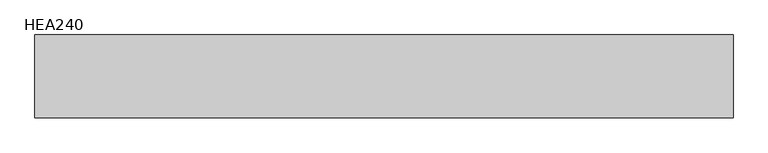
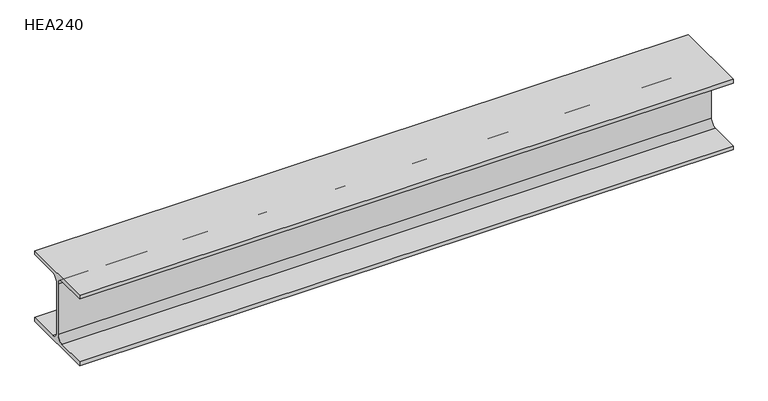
"""IFC4 building model written with IfcOpenShell, lengths in millimetres: beam geometry, HE-A : HEA240."""

from ifc_helpers import new_model, si_unit, point, frame, frame_2d, origin, place, context, project, spatial, polyline, circle_curve, trimmed, segment, composite_curve, outline, extrude, source, transform, mapped, element, save


def hea240_35d9e401(model_context):
    return source(origin(), model_context, "Body", "SweptSolid", [
        extrude(outline(composite_curve([segment(polyline([(120.0, -103.0), (120.0, -115.0), (-120.0, -115.0), (-120.0, -103.0), (-24.75, -103.0)]), True, "CONTINUOUS"), segment(trimmed(circle_curve(frame_2d((-24.75, -82.0)), 21.0), [point((-24.75, -103.0))], [point((-3.75, -82.0))], True, "CARTESIAN"), True, "CONTINUOUS"), segment(polyline([(-3.75, -82.0), (-3.75, 82.0)]), True, "CONTINUOUS"), segment(trimmed(circle_curve(frame_2d((-24.75, 82.0)), 21.0), [point((-3.75, 82.0))], [point((-24.75, 103.0))], True, "CARTESIAN"), True, "CONTINUOUS"), segment(polyline([(-24.75, 103.0), (-120.0, 103.0), (-120.0, 115.0), (120.0, 115.0), (120.0, 103.0), (24.75, 103.0)]), True, "CONTINUOUS"), segment(trimmed(circle_curve(frame_2d((24.75, 82.0)), 21.0), [point((24.75, 103.0))], [point((3.75, 82.0))], True, "CARTESIAN"), True, "CONTINUOUS"), segment(polyline([(3.75, 82.0), (3.75, -82.0)]), True, "CONTINUOUS"), segment(trimmed(circle_curve(frame_2d((24.75, -82.0)), 21.0), [point((3.75, -82.0))], [point((24.75, -103.0))], True, "CARTESIAN"), True, "CONTINUOUS"), segment(polyline([(24.75, -103.0), (120.0, -103.0)]), True, "CONTINUOUS")], self_intersect=False)), frame((-1012.3, 0.0, 0.0), z_axis=(1.0, 0.0, 0.0), x_axis=(0.0, 1.0, 0.0)), (0.0, 0.0, 1.0), 2019.9),
    ])


if __name__ == "__main__":
    model = new_model("IFC4")
    model_context = context("Model", 3, world=origin())
    ifc_project = project(units=[si_unit("LENGTHUNIT", "METRE", prefix="MILLI")], contexts=[model_context])
    site = spatial("IfcSite", under=ifc_project)
    building = spatial("IfcBuilding", under=site)
    placement = place(None, origin())
    hea240_shape = hea240_35d9e401(model_context)
    element("IfcBeam", 1, ObjectType="HE-A : HEA240", at=placement, inside=building, context=model_context, shape_type="MappedRepresentation", body=[
        mapped(hea240_shape, transform((0.0, 0.0, 0.0), x_axis=(1.0, 0.0, 0.0), y_axis=(0.0, 1.0, 0.0), z_axis=(0.0, 0.0, 1.0))),
    ])
    save(model, "model.ifc")
